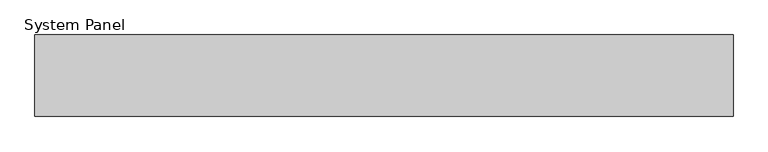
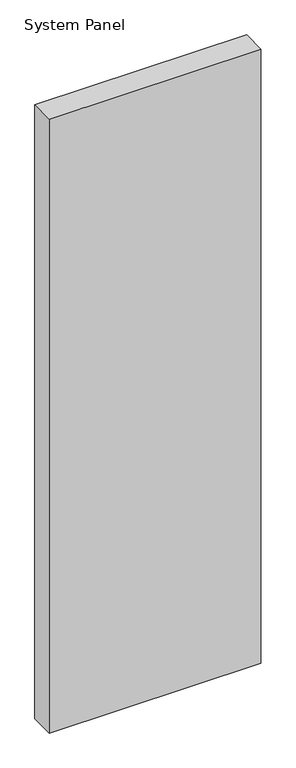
"""IFC4 building model written with IfcOpenShell, lengths in millimetres: plate geometry, System Panel : InsulWall_140mm_Plain_Surfmist."""

import ifcopenshell
import ifcopenshell.guid

model = None  # the IFC model being written
_history = None  # IfcOwnerHistory: only IFC2X3 demands one
_inside = {}  # id of a spatial element -> (the spatial element, [elements in it])
_under = {}  # id of a project, library or spatial element -> (it, [spatial elements below it])
_declared = {}  # id of a project -> (the project, [libraries it declares])
_typed = {}  # id of a type object -> (the type object, [elements of that type])
_made_of = {}  # id of a material, layer set ... -> (it, [elements and type objects made of it])


def new_model(schema):
    """Start an empty IFC model of exactly this schema.

    Asked for "IFC4X3", IfcOpenShell would pick the latest addendum, in which some entities
    have other attributes; the version numbers below select the first issue.
    IFC2X3 requires an IfcOwnerHistory on every rooted entity: one is made here for all.
    """
    global model, _history
    if schema == "IFC4X3":
        model = ifcopenshell.file(schema_version=(4, 3, 0, 0))
    else:
        model = ifcopenshell.file(schema=schema)
    _inside.clear()
    _under.clear()
    _declared.clear()
    _typed.clear()
    _made_of.clear()
    _history = None
    if model.schema == "IFC2X3":
        org = make("IfcOrganization", Name="unknown")
        user = make(
            "IfcPersonAndOrganization",
            ThePerson=make("IfcPerson", FamilyName="unknown"),
            TheOrganization=org,
        )
        app = make(
            "IfcApplication",
            ApplicationDeveloper=org,
            Version="unknown",
            ApplicationFullName="unknown",
            ApplicationIdentifier="unknown",
        )
        _history = make(
            "IfcOwnerHistory",
            OwningUser=user,
            OwningApplication=app,
            ChangeAction="ADDED",
            CreationDate=0,
        )
    return model


def make(cls, **values):
    """One entity of the class cls with the attributes given. An attribute that is None is left unset."""
    return model.create_entity(
        cls, **{name: value for name, value in values.items() if value is not None}
    )


def rooted(cls, **values):
    """An entity with a GlobalId (a new one), such as an element, a storey or a relation."""
    return make(cls, GlobalId=ifcopenshell.guid.new(), OwnerHistory=_history, **values)


def si_unit(unit_type, name, prefix=None):
    """IfcSIUnit, for example si_unit("LENGTHUNIT", "METRE", prefix="MILLI")."""
    return make("IfcSIUnit", UnitType=unit_type, Prefix=prefix, Name=name)


def assignment(units):
    """IfcUnitAssignment: the units of a project."""
    return None if units is None else make("IfcUnitAssignment", Units=units)


def point(xyz):
    """IfcCartesianPoint."""
    return None if xyz is None else make("IfcCartesianPoint", Coordinates=xyz)


def direction(xyz):
    """IfcDirection."""
    return None if xyz is None else make("IfcDirection", DirectionRatios=xyz)


def frame(location, z_axis=None, x_axis=None):
    """IfcAxis2Placement3D, a coordinate frame: its origin and axes. An axis left out is left unset."""
    return make(
        "IfcAxis2Placement3D",
        Location=point(location),
        Axis=direction(z_axis),
        RefDirection=direction(x_axis),
    )


def origin():
    """The frame at (0, 0, 0) with its axes left unset."""
    return frame((0.0, 0.0, 0.0))


def origin_with_axes():
    """The frame at (0, 0, 0) with the z axis (0, 0, 1) and the x axis (1, 0, 0) written out."""
    return frame((0.0, 0.0, 0.0), z_axis=(0.0, 0.0, 1.0), x_axis=(1.0, 0.0, 0.0))


def place(relative_to, where):
    """IfcLocalPlacement: puts the frame where relative to a parent placement (None: the world)."""
    return make(
        "IfcLocalPlacement", PlacementRelTo=relative_to, RelativePlacement=where
    )


def context(
    kind, dimensions, precision=None, world=None, true_north=None, identifier=None
):
    """IfcGeometricRepresentationContext, for example the 3D "Model" context."""
    return make(
        "IfcGeometricRepresentationContext",
        ContextIdentifier=identifier,
        ContextType=kind,
        CoordinateSpaceDimension=dimensions,
        Precision=precision,
        WorldCoordinateSystem=world,
        TrueNorth=true_north,
    )


def project(units=None, contexts=None):
    """IfcProject with its units and contexts."""
    return rooted(
        "IfcProject",
        Name="project",
        RepresentationContexts=contexts,
        UnitsInContext=assignment(units),
    )


def spatial(cls, under=None, at=None, **own):
    """A site, building, storey or space (cls), placed at a placement, below another one or the project."""
    s = rooted(cls, ObjectPlacement=at, **own)
    if under is not None:
        _under.setdefault(under.id(), (under, []))[1].append(s)
    return s


def polyline(points):
    """IfcPolyline through the points."""
    return make("IfcPolyline", Points=[point(p) for p in points])


def outline(outer, holes=None, kind="AREA"):
    """IfcArbitraryClosedProfileDef: a profile drawn as a closed curve; with holes, ...WithVoids."""
    if holes is None:
        return make("IfcArbitraryClosedProfileDef", ProfileType=kind, OuterCurve=outer)
    return make(
        "IfcArbitraryProfileDefWithVoids",
        ProfileType=kind,
        OuterCurve=outer,
        InnerCurves=holes,
    )


def extrude(swept, where, along, depth):
    """IfcExtrudedAreaSolid: the profile swept, set in the frame where, extruded along a direction by depth."""
    return make(
        "IfcExtrudedAreaSolid",
        SweptArea=swept,
        Position=where,
        ExtrudedDirection=direction(along),
        Depth=depth,
    )


def shape(context_of_items, identifier, shape_type, items):
    """IfcShapeRepresentation: the items that make up one representation, for example the "Body"."""
    return make(
        "IfcShapeRepresentation",
        ContextOfItems=context_of_items,
        RepresentationIdentifier=identifier,
        RepresentationType=shape_type,
        Items=items,
    )


def source(mapping_origin, context_of_items, identifier, shape_type, items):
    """IfcRepresentationMap: a shape defined once, which mapped items show again and again."""
    return make(
        "IfcRepresentationMap",
        MappingOrigin=mapping_origin,
        MappedRepresentation=shape(context_of_items, identifier, shape_type, items),
    )


def transform(
    local_origin,
    x_axis=None,
    y_axis=None,
    z_axis=None,
    scale=None,
    scale2=None,
    scale3=None,
    uniform=True,
):
    """IfcCartesianTransformationOperator3D, or its non-uniform kind. x_axis, y_axis, z_axis: its Axis1, 2, 3."""
    if uniform:
        return make(
            "IfcCartesianTransformationOperator3D",
            Axis1=direction(x_axis),
            Axis2=direction(y_axis),
            LocalOrigin=point(local_origin),
            Scale=scale,
            Axis3=direction(z_axis),
        )
    return make(
        "IfcCartesianTransformationOperator3DnonUniform",
        Axis1=direction(x_axis),
        Axis2=direction(y_axis),
        LocalOrigin=point(local_origin),
        Scale=scale,
        Axis3=direction(z_axis),
        Scale2=scale2,
        Scale3=scale3,
    )


def mapped(mapping_source, mapping_target):
    """IfcMappedItem: shows the shape of a source again, moved by a transform."""
    return make(
        "IfcMappedItem", MappingSource=mapping_source, MappingTarget=mapping_target
    )


def made_of(thing, what):
    """Note that an element or type object is made of a material, layer set ...; save() writes the relation."""
    if what is not None:
        _made_of.setdefault(what.id(), (what, []))[1].append(thing)
    return thing


def element(
    cls,
    number,
    at=None,
    inside=None,
    cuts=None,
    type_object=None,
    material=None,
    context=None,
    identifier="Body",
    shape_type=None,
    held_by="IfcProductDefinitionShape",
    body=None,
    shapes=None,
    **own,
):
    """One element of the class cls, such as IfcWall. Its Tag is "e" and its number.

    at: its placement. inside: the storey or other place that contains it. cuts: it is an
    opening in that element (IfcRelVoidsElement). A single representation is given by context,
    identifier, shape_type and body (its items); several are given by shapes. held_by: the class
    of the entity that holds the representations. save() writes the other relations.
    """
    e = rooted(cls, Tag="e%d" % number, ObjectPlacement=at, **own)
    if body is not None:
        shapes = [shape(context, identifier, shape_type, body)]
    if shapes is not None:
        e.Representation = make(held_by, Representations=shapes)
    if inside is not None:
        _inside.setdefault(inside.id(), (inside, []))[1].append(e)
    if cuts is not None:
        rooted(
            "IfcRelVoidsElement", RelatingBuildingElement=cuts, RelatedOpeningElement=e
        )
    if type_object is not None:
        _typed.setdefault(type_object.id(), (type_object, []))[1].append(e)
    return made_of(e, material)


def aggregate(whole, parts):
    """IfcRelAggregates: a whole, such as a stair, and the parts it consists of."""
    return rooted("IfcRelAggregates", RelatingObject=whole, RelatedObjects=parts)


def save(model, path):
    """Write the relations noted so far, then the file.

    IfcRelAggregates (storeys below a building ...), IfcRelContainedInSpatialStructure (elements
    in a storey), IfcRelDefinesByType, IfcRelAssociatesMaterial and IfcRelDeclares: one each for
    every whole, place, type object, material and project.
    """
    for whole, parts in _under.values():
        aggregate(whole, parts)
    for where, things in _inside.values():
        rooted(
            "IfcRelContainedInSpatialStructure",
            RelatedElements=things,
            RelatingStructure=where,
        )
    for kind, things in _typed.values():
        rooted("IfcRelDefinesByType", RelatedObjects=things, RelatingType=kind)
    for what, things in _made_of.values():
        rooted("IfcRelAssociatesMaterial", RelatedObjects=things, RelatingMaterial=what)
    for by, libraries in _declared.values():
        rooted("IfcRelDeclares", RelatingContext=by, RelatedDefinitions=libraries)
    model.write(path)


def system_panel_6ed0d2f5(model_context):
    return source(origin(), model_context, "Body", "SweptSolid", [
        extrude(outline(polyline([(600.0, -140.0), (-600.0, -140.0), (-600.0, 0.0), (600.0, 0.0), (600.0, -140.0)])), origin_with_axes(), (0.0, 0.0, 1.0), 3679.9704237),
    ])


if __name__ == "__main__":
    model = new_model("IFC4")
    model_context = context("Model", 3, world=origin())
    ifc_project = project(units=[si_unit("LENGTHUNIT", "METRE", prefix="MILLI")], contexts=[model_context])
    site = spatial("IfcSite", under=ifc_project)
    building = spatial("IfcBuilding", under=site)
    placement = place(None, origin())
    system_panel_shape = system_panel_6ed0d2f5(model_context)
    element("IfcPlate", 1, ObjectType="System Panel : InsulWall_140mm_Plain_Surfmist", at=placement, inside=building, context=model_context, shape_type="MappedRepresentation", body=[
        mapped(system_panel_shape, transform((0.0, 0.0, 0.0), x_axis=(1.0, 0.0, 0.0), y_axis=(0.0, 1.0, 0.0), z_axis=(0.0, 0.0, 1.0))),
    ])
    save(model, "model.ifc")
